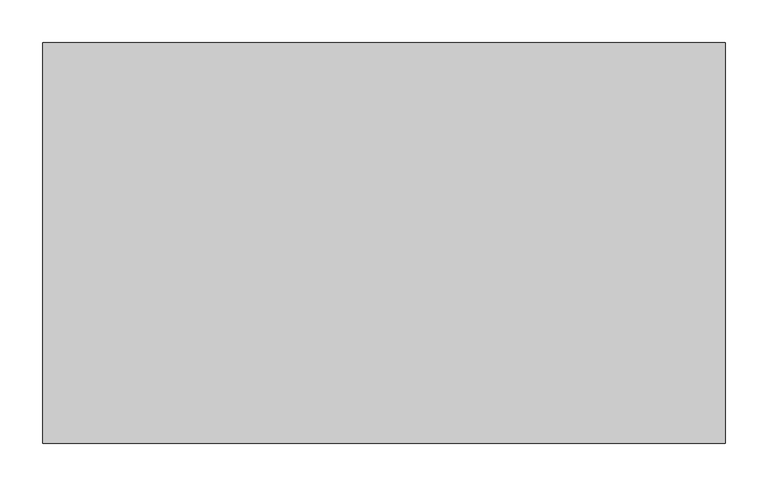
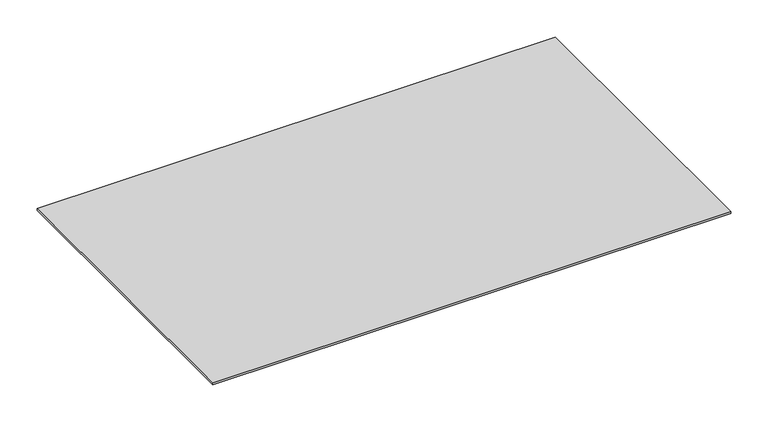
"""IFC4 building model written with IfcOpenShell, lengths in millimetres: proxy geometry, Electrical_Installation_Hager_Blank-Cover-BKAD : Electrical_Installation_Hager_Blank-Cover-BKAD."""

from ifc_helpers import new_model, si_unit, frame, origin, place, context, project, spatial, polyline, outline, extrude, source, transform, mapped, element, save


def electrical_fixtures_ba8608da(model_context):
    return source(origin(), model_context, "Body", "SweptSolid", [
        extrude(outline(polyline([(800.0, 235.0), (800.0, -235.0), (0.0, -235.0), (0.0, 235.0), (800.0, 235.0)])), frame((0.0, 0.0, 10.0), z_axis=(0.0, 0.0, 1.0), x_axis=(1.0, 0.0, 0.0)), (0.0, 0.0, 1.0), 3.0),
    ])


if __name__ == "__main__":
    model = new_model("IFC4")
    model_context = context("Model", 3, world=origin())
    ifc_project = project(units=[si_unit("LENGTHUNIT", "METRE", prefix="MILLI")], contexts=[model_context])
    site = spatial("IfcSite", under=ifc_project)
    building = spatial("IfcBuilding", under=site)
    placement = place(None, origin())
    electrical_fixtures_shape = electrical_fixtures_ba8608da(model_context)
    element("IfcBuildingElementProxy", 1, Name="Electrical_Installation_Hager_Blank-Cover-BKAD : Electrical_Installation_Hager_Blank-Cover-BKAD", ObjectType="Electrical_Installation_Hager_Blank-Cover-BKAD : Electrical_Installation_Hager_Blank-Cover-BKAD", at=placement, inside=building, context=model_context, shape_type="MappedRepresentation", body=[
        mapped(electrical_fixtures_shape, transform((0.0, 0.0, 0.0), x_axis=(1.0, 0.0, 0.0), y_axis=(0.0, 1.0, 0.0), z_axis=(0.0, 0.0, 1.0))),
    ])
    save(model, "model.ifc")
